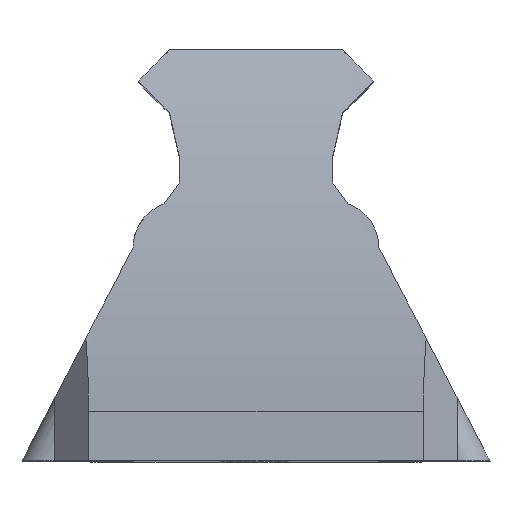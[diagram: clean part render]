
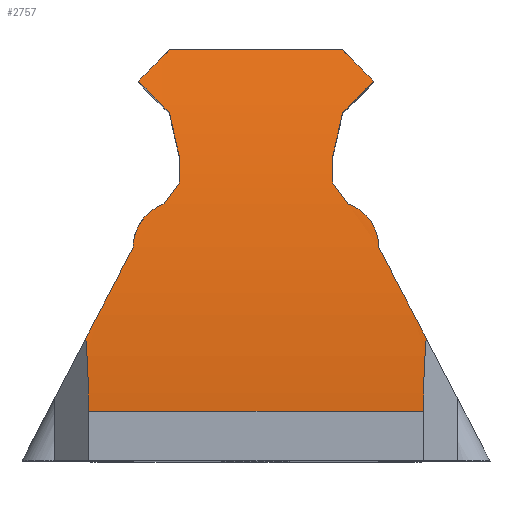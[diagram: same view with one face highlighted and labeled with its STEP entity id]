
A CAD part, top view. The second image highlights one B-rep face of the part: STEP entity #2757.
In plain terms, the highlighted cylindrical face has radius 88.5 mm (diameter 177 mm), a partial arc.
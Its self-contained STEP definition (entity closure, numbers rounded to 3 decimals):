
#21=ELLIPSE('',#2926,124.569,88.5);
#27=ELLIPSE('',#2963,125.158,88.5);
#28=ELLIPSE('',#2964,125.158,88.5);
#29=ELLIPSE('',#2965,99.781,88.5);
#30=ELLIPSE('',#2966,108.683,88.5);
#31=ELLIPSE('',#2968,90.691,88.5);
#32=ELLIPSE('',#2969,124.569,88.5);
#33=ELLIPSE('',#2970,124.569,88.5);
#34=ELLIPSE('',#2971,124.569,88.5);
#35=ELLIPSE('',#2972,90.691,88.5);
#36=ELLIPSE('',#2974,108.683,88.5);
#37=ELLIPSE('',#2975,99.781,88.5);
#51=B_SPLINE_CURVE_WITH_KNOTS('',3,(#4248,#4249,#4250,#4251,#4252,#4253,
#4254,#4255,#4256,#4257),.UNSPECIFIED.,.F.,.F.,(4,2,2,2,4),(0.651,
0.817,0.982,1.143,1.168),
 .UNSPECIFIED.);
#52=B_SPLINE_CURVE_WITH_KNOTS('',3,(#4278,#4279,#4280,#4281,#4282,#4283,
#4284,#4285,#4286,#4287),.UNSPECIFIED.,.F.,.F.,(4,2,2,2,4),(1.443,
1.467,1.629,1.794,1.959),
 .UNSPECIFIED.);
#71=CYLINDRICAL_SURFACE('',#2962,88.5);
#130=FACE_OUTER_BOUND('',#288,.T.);
#288=EDGE_LOOP('',(#1982,#1983,#1984,#1985,#1986,#1987,#1988,#1989,#1990,
#1991,#1992,#1993,#1994,#1995,#1996,#1997,#1998,#1999));
#446=CIRCLE('',#2967,88.5);
#447=CIRCLE('',#2973,88.5);
#576=LINE('',#4242,#891);
#577=LINE('',#4269,#892);
#891=VECTOR('',#3371,88.5);
#892=VECTOR('',#3386,10.);
#1143=VERTEX_POINT('',#4032);
#1144=VERTEX_POINT('',#4034);
#1216=VERTEX_POINT('',#4238);
#1217=VERTEX_POINT('',#4239);
#1218=VERTEX_POINT('',#4241);
#1219=VERTEX_POINT('',#4243);
#1220=VERTEX_POINT('',#4245);
#1221=VERTEX_POINT('',#4247);
#1222=VERTEX_POINT('',#4258);
#1223=VERTEX_POINT('',#4260);
#1224=VERTEX_POINT('',#4262);
#1225=VERTEX_POINT('',#4264);
#1226=VERTEX_POINT('',#4266);
#1227=VERTEX_POINT('',#4268);
#1228=VERTEX_POINT('',#4271);
#1229=VERTEX_POINT('',#4273);
#1230=VERTEX_POINT('',#4275);
#1231=VERTEX_POINT('',#4277);
#1415=EDGE_CURVE('',#1144,#1143,#21,.T.);
#1507=EDGE_CURVE('',#1216,#1217,#27,.T.);
#1508=EDGE_CURVE('',#1217,#1218,#576,.T.);
#1509=EDGE_CURVE('',#1218,#1219,#28,.T.);
#1510=EDGE_CURVE('',#1219,#1220,#29,.T.);
#1511=EDGE_CURVE('',#1220,#1221,#51,.T.);
#1512=EDGE_CURVE('',#1221,#1222,#30,.T.);
#1513=EDGE_CURVE('',#1222,#1223,#446,.T.);
#1514=EDGE_CURVE('',#1223,#1224,#31,.T.);
#1515=EDGE_CURVE('',#1224,#1225,#32,.T.);
#1516=EDGE_CURVE('',#1225,#1226,#33,.T.);
#1517=EDGE_CURVE('',#1227,#1226,#577,.F.);
#1518=EDGE_CURVE('',#1227,#1144,#34,.T.);
#1519=EDGE_CURVE('',#1143,#1228,#35,.T.);
#1520=EDGE_CURVE('',#1228,#1229,#447,.T.);
#1521=EDGE_CURVE('',#1229,#1230,#36,.T.);
#1522=EDGE_CURVE('',#1230,#1231,#52,.T.);
#1523=EDGE_CURVE('',#1231,#1216,#37,.T.);
#1982=ORIENTED_EDGE('',*,*,#1507,.T.);
#1983=ORIENTED_EDGE('',*,*,#1508,.T.);
#1984=ORIENTED_EDGE('',*,*,#1509,.T.);
#1985=ORIENTED_EDGE('',*,*,#1510,.T.);
#1986=ORIENTED_EDGE('',*,*,#1511,.T.);
#1987=ORIENTED_EDGE('',*,*,#1512,.T.);
#1988=ORIENTED_EDGE('',*,*,#1513,.T.);
#1989=ORIENTED_EDGE('',*,*,#1514,.T.);
#1990=ORIENTED_EDGE('',*,*,#1515,.T.);
#1991=ORIENTED_EDGE('',*,*,#1516,.T.);
#1992=ORIENTED_EDGE('',*,*,#1517,.F.);
#1993=ORIENTED_EDGE('',*,*,#1518,.T.);
#1994=ORIENTED_EDGE('',*,*,#1415,.T.);
#1995=ORIENTED_EDGE('',*,*,#1519,.T.);
#1996=ORIENTED_EDGE('',*,*,#1520,.T.);
#1997=ORIENTED_EDGE('',*,*,#1521,.T.);
#1998=ORIENTED_EDGE('',*,*,#1522,.T.);
#1999=ORIENTED_EDGE('',*,*,#1523,.T.);
#2757=ADVANCED_FACE('',(#130),#71,.T.);
#2926=AXIS2_PLACEMENT_3D('',#4035,#3224,#3225);
#2962=AXIS2_PLACEMENT_3D('',#4237,#3367,#3368);
#2963=AXIS2_PLACEMENT_3D('',#4240,#3369,#3370);
#2964=AXIS2_PLACEMENT_3D('',#4244,#3372,#3373);
#2965=AXIS2_PLACEMENT_3D('',#4246,#3374,#3375);
#2966=AXIS2_PLACEMENT_3D('',#4259,#3376,#3377);
#2967=AXIS2_PLACEMENT_3D('',#4261,#3378,#3379);
#2968=AXIS2_PLACEMENT_3D('',#4263,#3380,#3381);
#2969=AXIS2_PLACEMENT_3D('',#4265,#3382,#3383);
#2970=AXIS2_PLACEMENT_3D('',#4267,#3384,#3385);
#2971=AXIS2_PLACEMENT_3D('',#4270,#3387,#3388);
#2972=AXIS2_PLACEMENT_3D('',#4272,#3389,#3390);
#2973=AXIS2_PLACEMENT_3D('',#4274,#3391,#3392);
#2974=AXIS2_PLACEMENT_3D('',#4276,#3393,#3394);
#2975=AXIS2_PLACEMENT_3D('',#4288,#3395,#3396);
#3224=DIRECTION('center_axis',(0.71,0.704,0.));
#3225=DIRECTION('ref_axis',(-0.704,0.71,0.));
#3367=DIRECTION('center_axis',(1.,0.,0.));
#3368=DIRECTION('ref_axis',(0.,0.383,0.924));
#3369=DIRECTION('center_axis',(0.707,0.,-0.707));
#3370=DIRECTION('ref_axis',(0.707,0.,0.707));
#3371=DIRECTION('',(1.,0.,0.));
#3372=DIRECTION('center_axis',(-0.707,0.,
-0.707));
#3373=DIRECTION('ref_axis',(-0.707,0.,0.707));
#3374=DIRECTION('center_axis',(-0.887,-0.462,0.));
#3375=DIRECTION('ref_axis',(-0.462,0.887,0.));
#3376=DIRECTION('center_axis',(-0.814,-0.58,0.));
#3377=DIRECTION('ref_axis',(-0.58,0.814,0.));
#3378=DIRECTION('center_axis',(-1.,0.,0.));
#3379=DIRECTION('ref_axis',(0.,-0.924,0.383));
#3380=DIRECTION('center_axis',(-0.976,0.218,0.));
#3381=DIRECTION('ref_axis',(0.218,0.976,0.));
#3382=DIRECTION('center_axis',(-0.71,0.704,0.));
#3383=DIRECTION('ref_axis',(0.704,0.71,0.));
#3384=DIRECTION('center_axis',(-0.71,-0.704,0.));
#3385=DIRECTION('ref_axis',(-0.704,0.71,0.));
#3386=DIRECTION('',(-1.,0.,0.));
#3387=DIRECTION('center_axis',(0.71,-0.704,0.));
#3388=DIRECTION('ref_axis',(0.704,0.71,0.));
#3389=DIRECTION('center_axis',(0.976,0.218,0.));
#3390=DIRECTION('ref_axis',(-0.218,0.976,0.));
#3391=DIRECTION('center_axis',(1.,0.,0.));
#3392=DIRECTION('ref_axis',(0.,-0.924,0.383));
#3393=DIRECTION('center_axis',(0.814,-0.58,0.));
#3394=DIRECTION('ref_axis',(0.58,0.814,0.));
#3395=DIRECTION('center_axis',(0.887,-0.462,0.));
#3396=DIRECTION('ref_axis',(0.462,0.887,0.));
#4032=CARTESIAN_POINT('',(-39.309,-257.807,169.757));
#4034=CARTESIAN_POINT('',(-42.221,-254.867,168.719));
#4035=CARTESIAN_POINT('Origin',(-11.581,-285.799,85.8));
#4237=CARTESIAN_POINT('Origin',(-34.981,-285.799,85.8));
#4238=CARTESIAN_POINT('',(-47.142,-278.961,174.036));
#4239=CARTESIAN_POINT('',(-46.878,-285.799,174.3));
#4240=CARTESIAN_POINT('Origin',(-135.378,-285.799,85.8));
#4241=CARTESIAN_POINT('',(-15.515,-285.799,174.3));
#4242=CARTESIAN_POINT('',(-34.981,-285.799,174.3));
#4243=CARTESIAN_POINT('',(-15.25,-278.961,174.036));
#4244=CARTESIAN_POINT('Origin',(72.985,-285.799,85.8));
#4245=CARTESIAN_POINT('',(-19.687,-270.441,172.957));
#4246=CARTESIAN_POINT('Origin',(-11.689,-285.799,85.8));
#4247=CARTESIAN_POINT('',(-22.583,-266.378,172.143));
#4248=CARTESIAN_POINT('Ctrl Pts',(-19.687,-270.441,172.957));
#4249=CARTESIAN_POINT('Ctrl Pts',(-19.687,-269.899,172.862));
#4250=CARTESIAN_POINT('Ctrl Pts',(-19.796,-269.321,172.754));
#4251=CARTESIAN_POINT('Ctrl Pts',(-20.238,-268.259,172.546));
#4252=CARTESIAN_POINT('Ctrl Pts',(-20.571,-267.774,172.446));
#4253=CARTESIAN_POINT('Ctrl Pts',(-21.336,-267.014,172.285));
#4254=CARTESIAN_POINT('Ctrl Pts',(-21.816,-266.687,172.212));
#4255=CARTESIAN_POINT('Ctrl Pts',(-22.422,-266.436,172.156));
#4256=CARTESIAN_POINT('Ctrl Pts',(-22.502,-266.406,172.149));
#4257=CARTESIAN_POINT('Ctrl Pts',(-22.583,-266.378,172.143));
#4258=CARTESIAN_POINT('',(-23.984,-264.412,171.677));
#4259=CARTESIAN_POINT('Origin',(-8.739,-285.799,85.8));
#4260=CARTESIAN_POINT('',(-23.984,-261.831,170.993));
#4261=CARTESIAN_POINT('Origin',(-23.984,-285.799,85.8));
#4262=CARTESIAN_POINT('',(-23.084,-257.807,169.757));
#4263=CARTESIAN_POINT('Origin',(-29.35,-285.799,85.8));
#4264=CARTESIAN_POINT('',(-20.171,-254.867,168.719));
#4265=CARTESIAN_POINT('Origin',(-50.812,-285.799,85.8));
#4266=CARTESIAN_POINT('',(-23.084,-251.927,167.562));
#4267=CARTESIAN_POINT('Origin',(10.469,-285.799,85.8));
#4268=CARTESIAN_POINT('',(-39.309,-251.927,167.562));
#4269=CARTESIAN_POINT('',(-34.981,-251.927,167.562));
#4270=CARTESIAN_POINT('Origin',(-72.862,-285.799,85.8));
#4271=CARTESIAN_POINT('',(-38.408,-261.831,170.993));
#4272=CARTESIAN_POINT('Origin',(-33.042,-285.799,85.8));
#4273=CARTESIAN_POINT('',(-38.408,-264.412,171.677));
#4274=CARTESIAN_POINT('Origin',(-38.408,-285.799,85.8));
#4275=CARTESIAN_POINT('',(-39.81,-266.378,172.143));
#4276=CARTESIAN_POINT('Origin',(-53.653,-285.799,85.8));
#4277=CARTESIAN_POINT('',(-42.706,-270.441,172.957));
#4278=CARTESIAN_POINT('Ctrl Pts',(-39.81,-266.378,172.143));
#4279=CARTESIAN_POINT('Ctrl Pts',(-39.89,-266.406,172.149));
#4280=CARTESIAN_POINT('Ctrl Pts',(-39.97,-266.436,172.156));
#4281=CARTESIAN_POINT('Ctrl Pts',(-40.576,-266.687,172.212));
#4282=CARTESIAN_POINT('Ctrl Pts',(-41.056,-267.014,172.285));
#4283=CARTESIAN_POINT('Ctrl Pts',(-41.821,-267.774,172.446));
#4284=CARTESIAN_POINT('Ctrl Pts',(-42.155,-268.259,172.546));
#4285=CARTESIAN_POINT('Ctrl Pts',(-42.597,-269.321,172.754));
#4286=CARTESIAN_POINT('Ctrl Pts',(-42.706,-269.899,172.862));
#4287=CARTESIAN_POINT('Ctrl Pts',(-42.706,-270.441,172.957));
#4288=CARTESIAN_POINT('Origin',(-50.703,-285.799,85.8));
